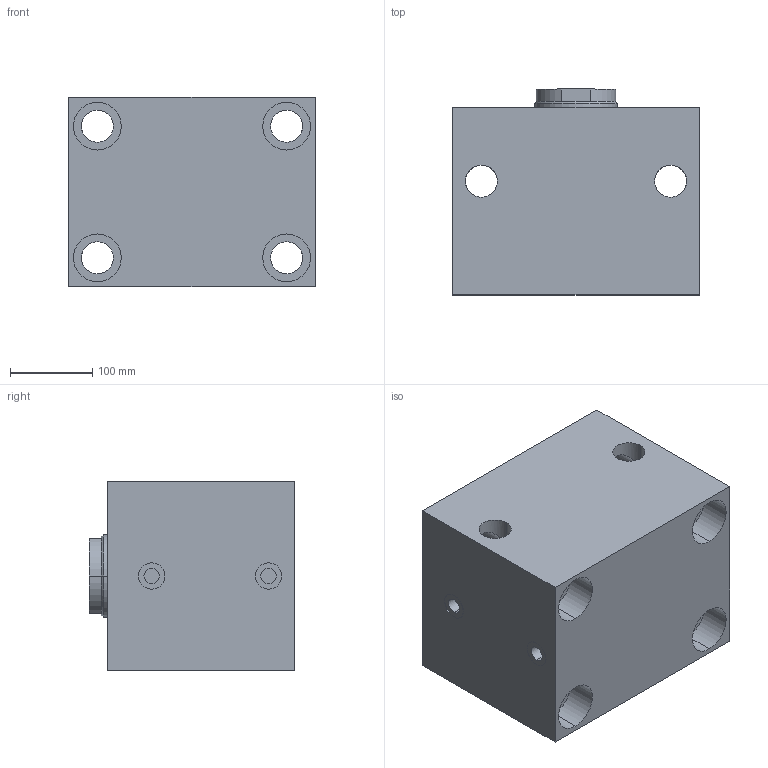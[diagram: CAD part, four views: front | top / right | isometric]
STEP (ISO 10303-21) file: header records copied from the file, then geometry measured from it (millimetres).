
FILE_DESCRIPTION (( 'STEP AP203' ), '1' );
FILE_NAME ('GERMA_Blockzylinder_600-160-100.STEP', '2015-10-11T16:36:48', ( '' ), ( '' ), 'SwSTEP 2.0', 'SolidWorks 2015', '' );
FILE_SCHEMA (( 'CONFIG_CONTROL_DESIGN' ));
Length unit declared in the file: millimetre
Products named in the file (3): GERMA_Blockzylinder_600-160-100; GH-600-160_GH-600-160-100; Kolben 60x-160_Kolben DU.160-Hub100-IG
Assembly tree (2 placements, depth 2):
  GERMA_Blockzylinder_600-160-100
    GH-600-160_GH-600-160-100
    Kolben 60x-160_Kolben DU.160-Hub100-IG
Bounding box: 300 x 250 x 230 mm (x, y, z)
Volume: 12549251.1 mm3; surface area: 772943.1 mm2
Topology: 2 solids, 2 shells, 117 faces, 268 edges, 162 vertices
Faces by surface type: cylinder 73, plane 30, cone 14
Entity records: 3602 total; most frequent: CARTESIAN_POINT 642, DIRECTION 599, ORIENTED_EDGE 524, EDGE_CURVE 262, AXIS2_PLACEMENT_3D 247, VERTEX_POINT 162, EDGE_LOOP 150, CIRCLE 125
